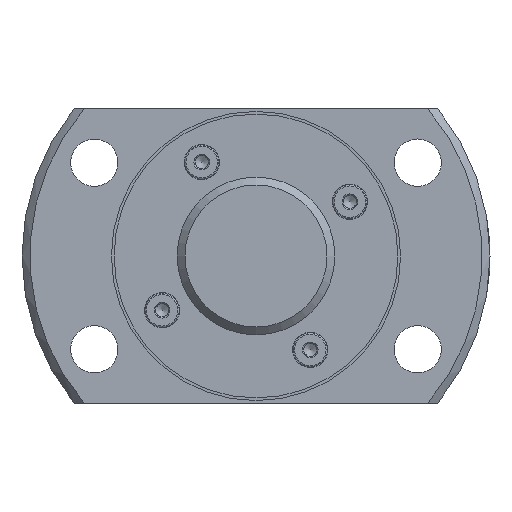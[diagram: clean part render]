
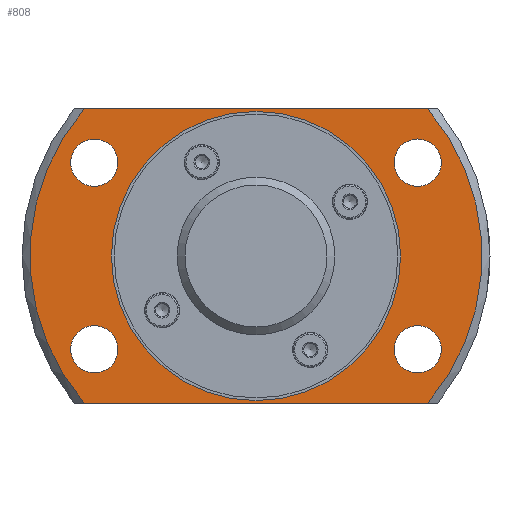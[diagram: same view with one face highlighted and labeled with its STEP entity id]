
A CAD part, left-side view. The second image highlights one B-rep face of the part: STEP entity #808.
In plain terms, the highlighted planar face has unit normal (-1, 0, 0).
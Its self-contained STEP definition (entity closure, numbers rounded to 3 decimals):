
#32=LINE('',#1443,#40);
#33=LINE('',#1444,#41);
#40=VECTOR('',#1127,1000.);
#41=VECTOR('',#1128,1000.);
#171=ORIENTED_EDGE('',*,*,#320,.T.);
#172=ORIENTED_EDGE('',*,*,#321,.F.);
#173=ORIENTED_EDGE('',*,*,#295,.F.);
#174=ORIENTED_EDGE('',*,*,#322,.F.);
#175=ORIENTED_EDGE('',*,*,#318,.F.);
#176=ORIENTED_EDGE('',*,*,#323,.T.);
#177=ORIENTED_EDGE('',*,*,#324,.T.);
#178=ORIENTED_EDGE('',*,*,#325,.T.);
#179=ORIENTED_EDGE('',*,*,#326,.T.);
#295=EDGE_CURVE('',#377,#376,#449,.T.);
#318=EDGE_CURVE('',#396,#397,#467,.T.);
#320=EDGE_CURVE('',#398,#398,#468,.T.);
#321=EDGE_CURVE('',#376,#396,#32,.T.);
#322=EDGE_CURVE('',#397,#377,#33,.T.);
#323=EDGE_CURVE('',#399,#399,#469,.T.);
#324=EDGE_CURVE('',#400,#400,#470,.T.);
#325=EDGE_CURVE('',#401,#401,#471,.T.);
#326=EDGE_CURVE('',#402,#402,#472,.T.);
#376=VERTEX_POINT('',#1366);
#377=VERTEX_POINT('',#1371);
#396=VERTEX_POINT('',#1433);
#397=VERTEX_POINT('',#1435);
#398=VERTEX_POINT('',#1442);
#399=VERTEX_POINT('',#1446);
#400=VERTEX_POINT('',#1448);
#401=VERTEX_POINT('',#1450);
#402=VERTEX_POINT('',#1452);
#449=CIRCLE('',#900,43.);
#467=CIRCLE('',#929,43.);
#468=CIRCLE('',#931,27.5);
#469=CIRCLE('',#932,4.5);
#470=CIRCLE('',#933,4.5);
#471=CIRCLE('',#934,4.5);
#472=CIRCLE('',#935,4.5);
#548=EDGE_LOOP('',(#171));
#549=EDGE_LOOP('',(#172,#173,#174,#175));
#550=EDGE_LOOP('',(#176));
#551=EDGE_LOOP('',(#177));
#552=EDGE_LOOP('',(#178));
#553=EDGE_LOOP('',(#179));
#678=FACE_BOUND('',#548,.T.);
#679=FACE_BOUND('',#549,.T.);
#680=FACE_BOUND('',#550,.T.);
#681=FACE_BOUND('',#551,.T.);
#682=FACE_BOUND('',#552,.T.);
#683=FACE_BOUND('',#553,.T.);
#775=PLANE('',#930);
#808=ADVANCED_FACE('',(#678,#679,#680,#681,#682,#683),#775,.T.);
#900=AXIS2_PLACEMENT_3D('',#1372,#1061,#1062);
#929=AXIS2_PLACEMENT_3D('',#1434,#1121,#1122);
#930=AXIS2_PLACEMENT_3D('',#1440,#1123,#1124);
#931=AXIS2_PLACEMENT_3D('',#1441,#1125,#1126);
#932=AXIS2_PLACEMENT_3D('',#1445,#1129,#1130);
#933=AXIS2_PLACEMENT_3D('',#1447,#1131,#1132);
#934=AXIS2_PLACEMENT_3D('',#1449,#1133,#1134);
#935=AXIS2_PLACEMENT_3D('',#1451,#1135,#1136);
#1061=DIRECTION('',(1.,0.,0.));
#1062=DIRECTION('',(0.,0.,-1.));
#1121=DIRECTION('',(1.,0.,0.));
#1122=DIRECTION('',(0.,0.,-1.));
#1123=DIRECTION('',(-1.,0.,0.));
#1124=DIRECTION('',(0.,0.,1.));
#1125=DIRECTION('',(1.,0.,0.));
#1126=DIRECTION('',(0.,0.,-1.));
#1127=DIRECTION('',(0.,1.,0.));
#1128=DIRECTION('',(0.,-1.,0.));
#1129=DIRECTION('',(1.,0.,0.));
#1130=DIRECTION('',(0.,0.,-1.));
#1131=DIRECTION('',(1.,0.,0.));
#1132=DIRECTION('',(0.,0.,-1.));
#1133=DIRECTION('',(1.,0.,0.));
#1134=DIRECTION('',(0.,0.,-1.));
#1135=DIRECTION('',(1.,0.,0.));
#1136=DIRECTION('',(0.,0.,-1.));
#1366=CARTESIAN_POINT('',(15.7,-32.634,-28.));
#1371=CARTESIAN_POINT('',(15.7,-32.634,28.));
#1372=CARTESIAN_POINT('',(15.7,0.,0.));
#1433=CARTESIAN_POINT('',(15.7,32.634,-28.));
#1434=CARTESIAN_POINT('',(15.7,0.,0.));
#1435=CARTESIAN_POINT('',(15.7,32.634,28.));
#1440=CARTESIAN_POINT('',(15.7,43.,0.));
#1441=CARTESIAN_POINT('',(15.7,0.,0.));
#1442=CARTESIAN_POINT('',(15.7,0.,-27.5));
#1443=CARTESIAN_POINT('',(15.7,43.,-28.));
#1444=CARTESIAN_POINT('',(15.7,43.,28.));
#1445=CARTESIAN_POINT('',(15.7,-30.744,17.75));
#1446=CARTESIAN_POINT('',(15.7,-30.744,13.25));
#1447=CARTESIAN_POINT('',(15.7,30.744,-17.75));
#1448=CARTESIAN_POINT('',(15.7,30.744,-22.25));
#1449=CARTESIAN_POINT('',(15.7,-30.744,-17.75));
#1450=CARTESIAN_POINT('',(15.7,-30.744,-22.25));
#1451=CARTESIAN_POINT('',(15.7,30.744,17.75));
#1452=CARTESIAN_POINT('',(15.7,30.744,13.25));
